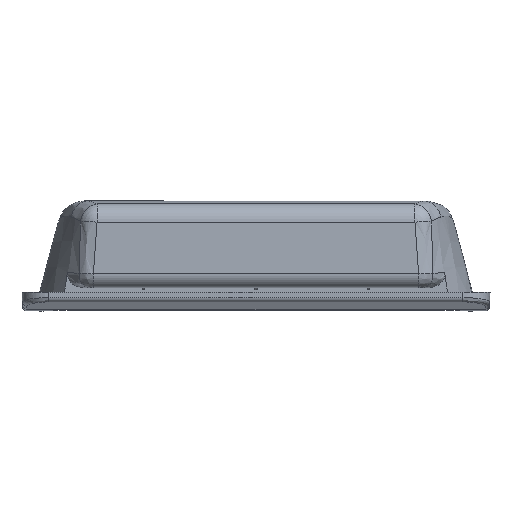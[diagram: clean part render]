
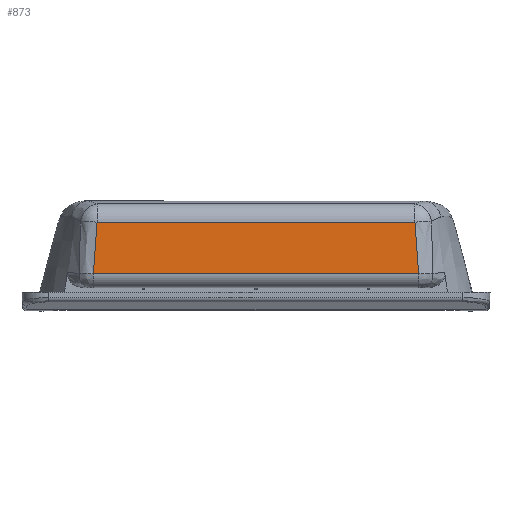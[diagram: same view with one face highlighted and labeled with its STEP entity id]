
A CAD part, front view. The second image highlights one B-rep face of the part: STEP entity #873.
In plain terms, the highlighted planar face has unit normal (0, -1, 0.018).
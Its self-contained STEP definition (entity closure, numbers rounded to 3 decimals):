
#142 = DIRECTION ( 'NONE',  ( 1., 0., 0. ) ) ;
#317 = EDGE_CURVE ( 'NONE', #1957, #4932, #746, .T. ) ;
#407 = ORIENTED_EDGE ( 'NONE', *, *, #2917, .T. ) ;
#481 = FACE_OUTER_BOUND ( 'NONE', #1544, .T. ) ;
#511 = CARTESIAN_POINT ( 'NONE',  ( -112.612, -25.4, 1.7 ) ) ;
#599 = PLANE ( 'NONE',  #5204 ) ;
#746 = LINE ( 'NONE', #5353, #4162 ) ;
#873 = ADVANCED_FACE ( 'NONE', ( #481 ), #599, .T. ) ;
#896 = CARTESIAN_POINT ( 'NONE',  ( -100.755, -25.359, 4.052 ) ) ;
#1544 = EDGE_LOOP ( 'NONE', ( #2999, #407, #5000, #5729 ) ) ;
#1773 = B_SPLINE_CURVE_WITH_KNOTS ( 'NONE', 3,
 ( #5219, #3501, #3956, #3439 ),
 .UNSPECIFIED., .F., .F.,
 ( 4, 4 ),
 ( -0.126, -0.115 ),
 .UNSPECIFIED. ) ;
#1901 = DIRECTION ( 'NONE',  ( 0., -1., 0.017 ) ) ;
#1957 = VERTEX_POINT ( 'NONE', #2468 ) ;
#2012 = CARTESIAN_POINT ( 'NONE',  ( -100.522, -25.292, 7.892 ) ) ;
#2340 = VERTEX_POINT ( 'NONE', #896 ) ;
#2461 = CARTESIAN_POINT ( 'NONE',  ( -112.612, -25.359, 4.052 ) ) ;
#2468 = CARTESIAN_POINT ( 'NONE',  ( -29.281, -25.158, 15.562 ) ) ;
#2487 = B_SPLINE_CURVE_WITH_KNOTS ( 'NONE', 3,
 ( #5332, #2012, #3944, #4848 ),
 .UNSPECIFIED., .F., .F.,
 ( 4, 4 ),
 ( -0.094, -0.083 ),
 .UNSPECIFIED. ) ;
#2737 = EDGE_CURVE ( 'NONE', #2340, #4932, #2487, .T. ) ;
#2839 = CARTESIAN_POINT ( 'NONE',  ( -99.944, -25.158, 15.562 ) ) ;
#2917 = EDGE_CURVE ( 'NONE', #2340, #3973, #4892, .T. ) ;
#2999 = ORIENTED_EDGE ( 'NONE', *, *, #2737, .F. ) ;
#3439 = CARTESIAN_POINT ( 'NONE',  ( -29.281, -25.158, 15.562 ) ) ;
#3501 = CARTESIAN_POINT ( 'NONE',  ( -28.703, -25.292, 7.89 ) ) ;
#3602 = EDGE_CURVE ( 'NONE', #3973, #1957, #1773, .T. ) ;
#3944 = CARTESIAN_POINT ( 'NONE',  ( -100.249, -25.225, 11.728 ) ) ;
#3956 = CARTESIAN_POINT ( 'NONE',  ( -28.975, -25.225, 11.727 ) ) ;
#3973 = VERTEX_POINT ( 'NONE', #5749 ) ;
#4162 = VECTOR ( 'NONE', #4951, 1000. ) ;
#4461 = VECTOR ( 'NONE', #142, 1000. ) ;
#4848 = CARTESIAN_POINT ( 'NONE',  ( -99.944, -25.158, 15.562 ) ) ;
#4892 = LINE ( 'NONE', #2461, #4461 ) ;
#4932 = VERTEX_POINT ( 'NONE', #2839 ) ;
#4951 = DIRECTION ( 'NONE',  ( -1., 0., 0. ) ) ;
#5000 = ORIENTED_EDGE ( 'NONE', *, *, #3602, .T. ) ;
#5134 = DIRECTION ( 'NONE',  ( -1., 0., 0. ) ) ;
#5204 = AXIS2_PLACEMENT_3D ( 'NONE', #511, #1901, #5134 ) ;
#5219 = CARTESIAN_POINT ( 'NONE',  ( -28.469, -25.359, 4.052 ) ) ;
#5332 = CARTESIAN_POINT ( 'NONE',  ( -100.755, -25.359, 4.052 ) ) ;
#5353 = CARTESIAN_POINT ( 'NONE',  ( -64.612, -25.158, 15.562 ) ) ;
#5729 = ORIENTED_EDGE ( 'NONE', *, *, #317, .T. ) ;
#5749 = CARTESIAN_POINT ( 'NONE',  ( -28.469, -25.359, 4.052 ) ) ;
